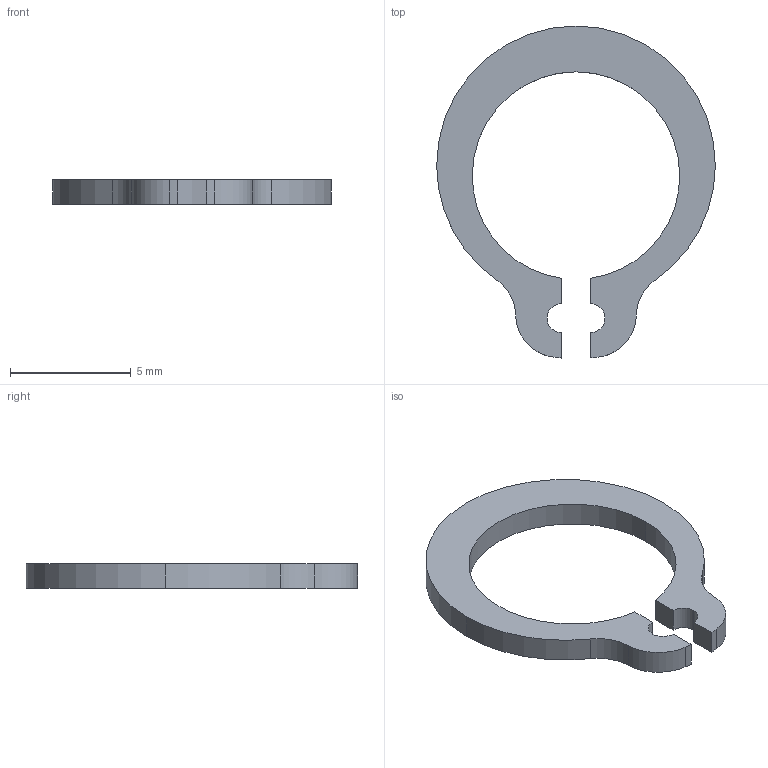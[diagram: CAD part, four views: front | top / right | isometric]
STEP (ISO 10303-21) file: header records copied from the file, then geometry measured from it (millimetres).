
FILE_DESCRIPTION (( 'STEP AP214' ), '1' );
FILE_NAME ('Anneau élastique19.STEP', '2005-04-07T19:32:42', ( 'frantz' ), ( '' ), 'SwSTEP 2.0', 'SolidWorks 2004104', '' );
FILE_SCHEMA (( 'AUTOMOTIVE_DESIGN' ));
Length unit declared in the file: centimetre
Products named in the file (1): Anneau élastique19
Bounding box: 11.55 x 13.76 x 1 mm (x, y, z)
Volume: 52.5 mm3; surface area: 177.2 mm2
Topology: 1 solids, 1 shells, 21 faces, 57 edges, 38 vertices
Faces by surface type: cylinder 15, plane 6
Entity records: 704 total; most frequent: DIRECTION 131, CARTESIAN_POINT 117, ORIENTED_EDGE 114, EDGE_CURVE 57, AXIS2_PLACEMENT_3D 52, VERTEX_POINT 38, CIRCLE 30, VECTOR 27
